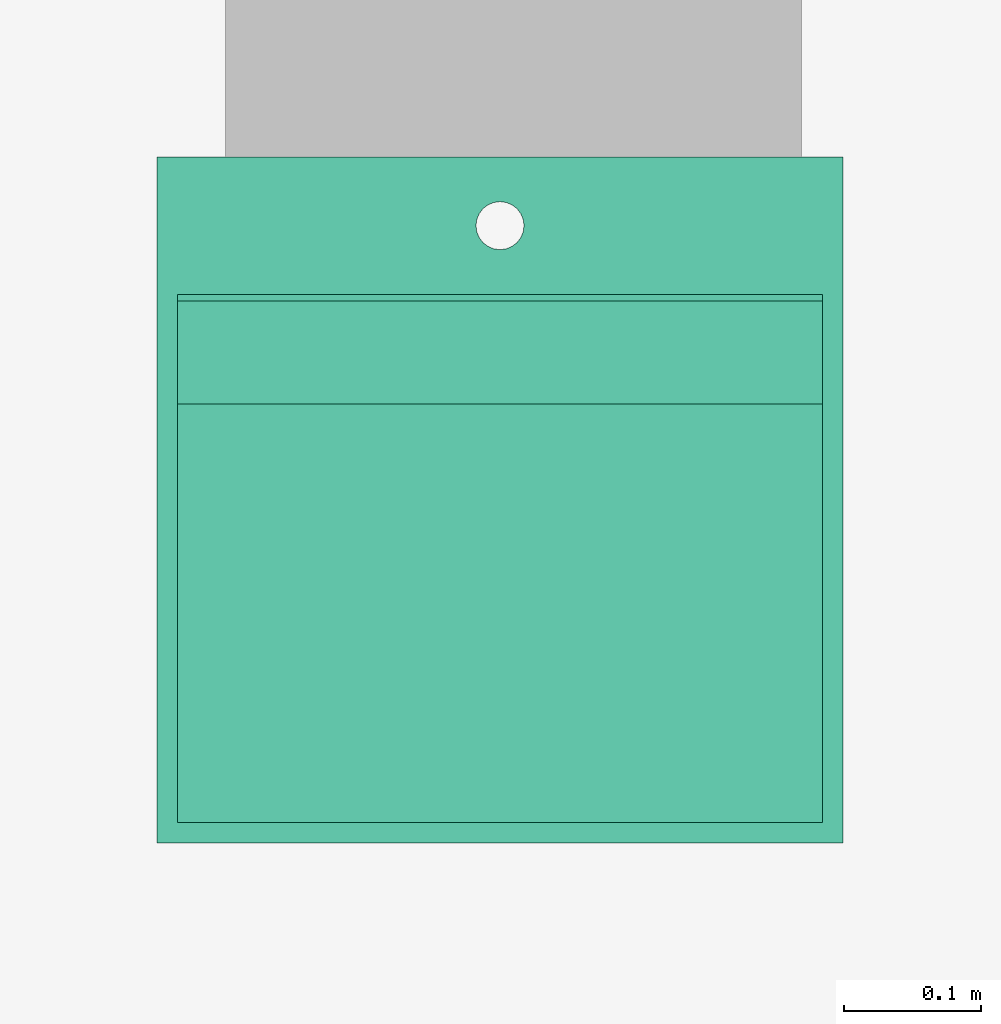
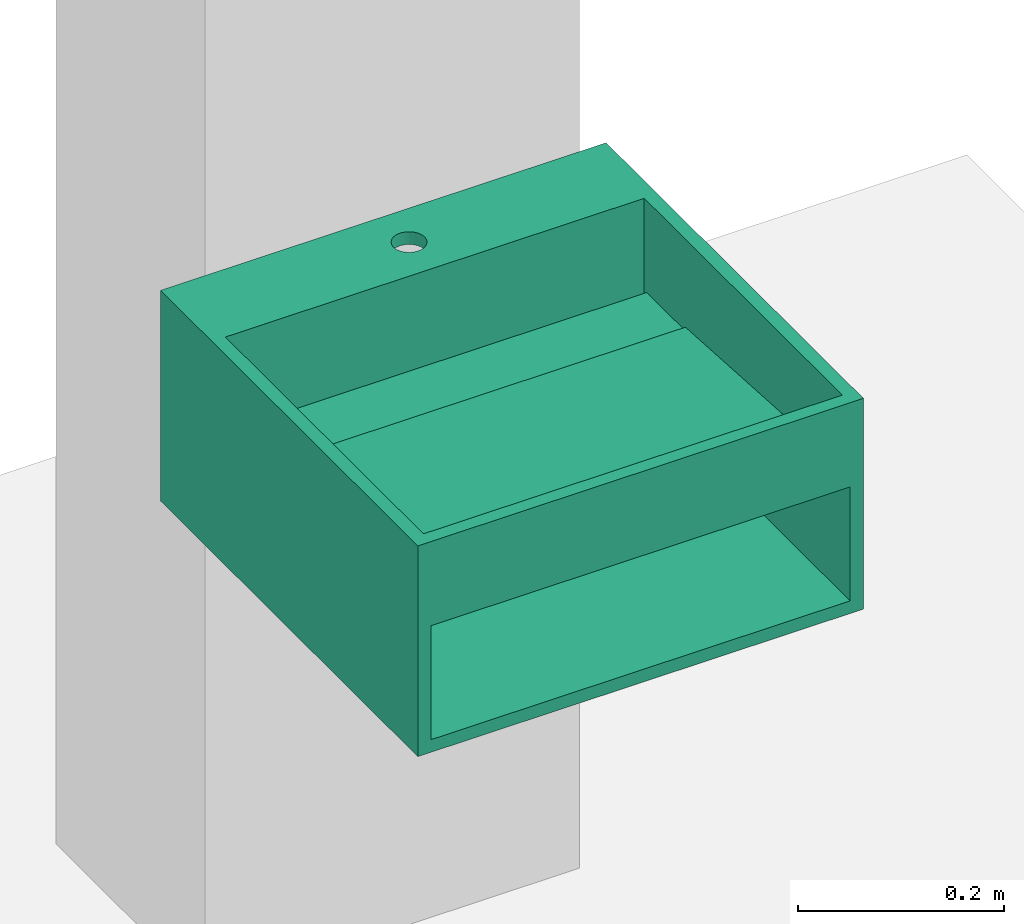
# One storey, part 2 of 2: 1 flow terminal.
"""IFC2X3 building model written with IfcOpenShell, lengths in millimetres."""

from ifc_helpers import new_model, entity, si_unit, converted_unit, derived_unit, direction, frame, origin, place, context, subcontext, project, spatial, faceted_brep, source, transform, mapped, material, element, save


model = new_model("IFC2X3")

# Units and contexts
model_context = context("Model", 3, precision=0.01, world=origin(), true_north=direction((6.12303176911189e-17, 1.0)))
context_of_model = context(None, 3, precision=0.01, world=origin(), true_north=direction((6.12303176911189e-17, 1.0)))
body_context = subcontext(model_context, "Body", "Model", "MODEL_VIEW")
ifc_project = project(units=[si_unit("LENGTHUNIT", "METRE", prefix="MILLI"), si_unit("AREAUNIT", "SQUARE_METRE"), si_unit("VOLUMEUNIT", "CUBIC_METRE"), converted_unit("PLANEANGLEUNIT", "DEGREE", entity("IfcRatioMeasure", 0.0174532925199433), si_unit("PLANEANGLEUNIT", "RADIAN"), dimensions=[0, 0, 0, 0, 0, 0, 0]), si_unit("MASSUNIT", "GRAM", prefix="KILO"), derived_unit("MASSDENSITYUNIT", [(si_unit("MASSUNIT", "GRAM", prefix="KILO"), 1), (si_unit("LENGTHUNIT", "METRE"), -3)]), si_unit("TIMEUNIT", "SECOND"), si_unit("FREQUENCYUNIT", "HERTZ"), si_unit("THERMODYNAMICTEMPERATUREUNIT", "DEGREE_CELSIUS"), derived_unit("THERMALTRANSMITTANCEUNIT", [(si_unit("MASSUNIT", "GRAM", prefix="KILO"), 1), (si_unit("THERMODYNAMICTEMPERATUREUNIT", "KELVIN"), -1), (si_unit("TIMEUNIT", "SECOND"), -3)]), derived_unit("VOLUMETRICFLOWRATEUNIT", [(si_unit("LENGTHUNIT", "METRE"), 3), (si_unit("TIMEUNIT", "SECOND"), -1)]), si_unit("ELECTRICCURRENTUNIT", "AMPERE"), si_unit("ELECTRICVOLTAGEUNIT", "VOLT"), si_unit("POWERUNIT", "WATT"), si_unit("FORCEUNIT", "NEWTON", prefix="KILO"), si_unit("ILLUMINANCEUNIT", "LUX"), si_unit("LUMINOUSFLUXUNIT", "LUMEN"), si_unit("LUMINOUSINTENSITYUNIT", "CANDELA"), derived_unit("USERDEFINED", [(si_unit("MASSUNIT", "GRAM", prefix="KILO"), -1), (si_unit("LENGTHUNIT", "METRE"), -2), (si_unit("TIMEUNIT", "SECOND"), 3), (si_unit("LUMINOUSFLUXUNIT", "LUMEN"), 1)]), derived_unit("LINEARVELOCITYUNIT", [(si_unit("LENGTHUNIT", "METRE"), 1), (si_unit("TIMEUNIT", "SECOND"), -1)]), si_unit("PRESSUREUNIT", "PASCAL"), derived_unit("USERDEFINED", [(si_unit("LENGTHUNIT", "METRE"), -2), (si_unit("MASSUNIT", "GRAM", prefix="KILO"), 1), (si_unit("TIMEUNIT", "SECOND"), -2)])], contexts=[model_context, context_of_model])

# Site, building, storey
site_placement = place(None, origin())
site = spatial("IfcSite", under=ifc_project, at=site_placement, Name="Default", CompositionType="ELEMENT")
building_placement = place(site_placement, origin())
building = spatial("IfcBuilding", under=site, at=building_placement, Name="n/a", CompositionType="ELEMENT")
storey_placement = place(building_placement, origin())
storey = spatial("IfcBuildingStorey", under=building, at=storey_placement, Name="Level 0", CompositionType="ELEMENT", Elevation=0.0)

# Flow terminal
ifc_material = material(Name="DBLTD_Neilur_SolidSurface_White")
shared_shape = source(origin(), body_context, "Body", "Brep", [
    faceted_brep([(485.0, 179.999279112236, 141.295031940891), (15.0, 179.999279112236, 141.295031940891), (15.0, 104.998178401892, 141.295031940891), (485.0, 104.998178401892, 141.295031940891), (485.0, 179.999279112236, 135.539743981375), (485.0, 104.998178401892, 135.539743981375), (15.0, 104.998178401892, 135.539743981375), (15.0, 179.999279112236, 135.539743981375)], [[[0, 1, 2, 3]], [[4, 5, 6, 7]], [[1, 0, 4, 7]], [[2, 1, 7, 6]], [[3, 2, 6, 5]], [[0, 3, 5, 4]]]),
    faceted_brep([(485.0, 179.999279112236, 145.604236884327), (485.0, 179.999279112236, 134.490041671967), (485.0, 99.9981784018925, 134.490041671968), (485.0, 99.9981784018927, 250.0), (485.0, 484.999914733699, 250.0), (485.0, 484.999914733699, 164.290442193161), (485.0, 84.9988682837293, 121.314751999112), (485.0, 164.999193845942, 121.314751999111), (485.0, 164.999193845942, 0.0), (485.0, 0.0, 0.0), (485.0, 0.0, 235.000592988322), (485.0, 84.9988682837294, 235.000592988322), (485.0, 179.999279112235, 130.57463708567), (485.0, 500.0, 150.17983940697), (485.0, 500.0, 14.9993101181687), (485.0, 179.999279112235, 14.9993101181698), (15.0, 84.9988682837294, 235.000592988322), (15.0, 0.0, 235.000592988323), (15.0, 0.0, 0.0), (15.0, 164.999193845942, 0.0), (15.0, 164.999193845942, 121.314751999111), (15.0, 84.9988682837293, 121.314751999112), (15.0, 500.0, 14.9993101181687), (15.0, 500.0, 150.17983940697), (15.0, 179.999279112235, 130.57463708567), (15.0, 179.999279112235, 14.9993101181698), (15.0, 484.999914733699, 250.0), (15.0, 99.9981784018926, 250.0), (15.0, 99.9981784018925, 134.490041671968), (15.0, 179.999279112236, 134.490041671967), (15.0, 179.999279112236, 145.604236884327), (15.0, 484.999914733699, 164.290442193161), (500.0, 500.0, 250.0), (500.0, 0.0, 250.0), (0.0, 500.0, 250.0), (0.0, 0.0, 250.0), (232.500000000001, 49.9471674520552, 250.0), (233.096298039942, 45.4178341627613, 250.0), (234.844555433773, 41.1971674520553, 250.0), (237.625631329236, 37.5727987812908, 250.0), (241.250000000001, 34.7917228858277, 250.0), (245.470666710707, 33.0434654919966, 250.0), (250.0, 32.4471674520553, 250.0), (267.500000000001, 49.9471674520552, 250.0), (266.90370196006, 45.4178341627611, 250.0), (265.155444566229, 41.1971674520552, 250.0), (262.374368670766, 37.5727987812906, 250.0), (258.750000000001, 34.7917228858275, 250.0), (254.529333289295, 33.0434654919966, 250.0), (233.096298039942, 54.4765007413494, 250.0), (234.844555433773, 58.6971674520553, 250.0), (237.625631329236, 62.3215361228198, 250.0), (241.250000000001, 65.1026120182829, 250.0), (245.470666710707, 66.850869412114, 250.0), (250.0, 67.4471674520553, 250.0), (254.529333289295, 66.850869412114, 250.0), (258.750000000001, 65.1026120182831, 250.0), (262.374368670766, 62.3215361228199, 250.0), (265.155444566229, 58.6971674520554, 250.0), (266.90370196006, 54.4765007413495, 250.0), (0.0, 500.0, 0.0), (500.0, 500.0, 0.0), (500.0, 0.0, 0.0), (0.0, 0.0, 0.0), (234.844555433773, 41.1971674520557, 235.000592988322), (233.096298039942, 45.4178341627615, 235.000592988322), (232.500000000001, 49.9471674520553, 235.000592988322), (245.470666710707, 33.0434654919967, 235.000592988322), (241.250000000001, 34.7917228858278, 235.000592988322), (237.625631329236, 37.572798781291, 235.000592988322), (250.0, 32.4471674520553, 235.000592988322), (254.529333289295, 33.0434654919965, 235.000592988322), (258.750000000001, 34.7917228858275, 235.000592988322), (262.374368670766, 37.5727987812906, 235.000592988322), (266.90370196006, 45.417834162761, 235.000592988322), (265.155444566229, 41.1971674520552, 235.000592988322), (267.500000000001, 49.947167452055, 235.000592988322), (266.90370196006, 54.4765007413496, 235.000592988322), (265.155444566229, 58.6971674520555, 235.000592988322), (258.750000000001, 65.1026120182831, 235.000592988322), (262.374368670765, 62.32153612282, 235.000592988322), (254.529333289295, 66.850869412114, 235.000592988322), (250.0, 67.4471674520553, 235.000592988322), (245.470666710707, 66.850869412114, 235.000592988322), (241.250000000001, 65.102612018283, 235.000592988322), (237.625631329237, 62.32153612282, 235.000592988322), (233.096298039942, 54.4765007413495, 235.000592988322), (234.844555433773, 58.6971674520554, 235.000592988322), (280.425250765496, 140.348320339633, 134.490041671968), (277.278533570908, 132.751473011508, 134.490041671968), (281.49853740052, 148.500741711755, 134.490041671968), (272.272829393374, 126.227912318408, 134.490041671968), (265.749268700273, 121.222208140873, 134.490041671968), (258.152421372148, 118.075490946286, 134.490041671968), (250.0, 117.002204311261, 134.490041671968), (241.847578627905, 118.075490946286, 134.490041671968), (234.25073129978, 121.222208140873, 134.490041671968), (227.72717060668, 126.227912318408, 134.490041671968), (222.721466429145, 132.751473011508, 134.490041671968), (219.574749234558, 140.348320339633, 134.490041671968), (218.501462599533, 148.500741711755, 134.490041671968), (219.574749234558, 156.653163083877, 134.490041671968), (222.721466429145, 164.250010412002, 134.490041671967), (227.72717060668, 170.773571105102, 134.490041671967), (234.25073129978, 175.779275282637, 134.490041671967), (241.847578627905, 178.925992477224, 134.490041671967), (250.0, 179.999279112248, 134.490041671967), (258.152421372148, 178.925992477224, 134.490041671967), (265.749268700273, 175.779275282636, 134.490041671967), (272.272829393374, 170.773571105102, 134.490041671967), (277.278533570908, 164.250010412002, 134.490041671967), (280.425250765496, 156.653163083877, 134.490041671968), (265.049476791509, 148.500741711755, 121.314751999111), (264.536678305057, 152.395832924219, 121.314751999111), (264.536678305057, 144.605650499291, 121.314751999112), (263.033229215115, 156.025480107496, 121.314751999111), (260.641587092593, 159.142328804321, 121.314751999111), (257.524738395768, 161.533970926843, 121.314751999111), (253.895091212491, 163.037420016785, 121.314751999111), (250.0, 163.550218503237, 121.314751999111), (246.104908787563, 163.037420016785, 121.314751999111), (242.475261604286, 161.533970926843, 121.314751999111), (239.35841290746, 159.142328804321, 121.314751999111), (236.966770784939, 156.025480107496, 121.314751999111), (235.463321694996, 152.395832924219, 121.314751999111), (234.950523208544, 148.500741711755, 121.314751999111), (235.463321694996, 144.605650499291, 121.314751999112), (236.966770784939, 140.976003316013, 121.314751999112), (239.35841290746, 137.859154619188, 121.314751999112), (242.475261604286, 135.467512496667, 121.314751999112), (246.104908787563, 133.964063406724, 121.314751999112), (250.0, 133.451264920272, 121.314751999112), (253.895091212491, 133.964063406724, 121.314751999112), (257.524738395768, 135.467512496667, 121.314751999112), (260.641587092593, 137.859154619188, 121.314751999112), (263.033229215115, 140.976003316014, 121.314751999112), (236.052495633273, 145.840344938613, 122.972285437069), (237.154468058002, 143.179948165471, 122.972285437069), (238.256440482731, 140.51955139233, 122.972285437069), (252.660396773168, 134.553237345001, 122.972285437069), (255.32079354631, 135.65520976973, 122.972285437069), (257.981190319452, 136.757182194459, 122.972285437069), (234.950523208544, 148.500741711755, 122.972285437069), (239.35841290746, 137.859154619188, 122.972285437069), (242.018809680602, 136.757182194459, 122.972285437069), (250.0, 133.451264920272, 122.972285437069), (247.339603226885, 134.553237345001, 122.972285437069), (244.679206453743, 135.65520976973, 122.972285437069), (263.94750436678, 145.840344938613, 122.972285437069), (261.743559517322, 140.51955139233, 122.972285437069), (262.845531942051, 143.179948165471, 122.972285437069), (260.641587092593, 137.859154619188, 122.972285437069), (265.049476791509, 148.500741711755, 122.972285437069), (263.94750436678, 151.161138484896, 122.972285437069), (262.845531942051, 153.821535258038, 122.972285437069), (261.743559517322, 156.48193203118, 122.972285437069), (247.339603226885, 162.448246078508, 122.972285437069), (244.679206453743, 161.346273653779, 122.972285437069), (242.018809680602, 160.24430122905, 122.972285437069), (260.641587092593, 159.142328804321, 122.972285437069), (257.981190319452, 160.24430122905, 122.972285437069), (250.0, 163.550218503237, 122.972285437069), (252.660396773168, 162.448246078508, 122.972285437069), (255.32079354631, 161.346273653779, 122.972285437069), (236.052495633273, 151.161138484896, 122.972285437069), (238.256440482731, 156.48193203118, 122.972285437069), (237.154468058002, 153.821535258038, 122.972285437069), (239.35841290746, 159.142328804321, 122.972285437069)], [[[0, 1, 2, 3, 4, 5]], [[6, 7, 8, 9, 10, 11]], [[12, 13, 14, 15]], [[16, 17, 18, 19, 20, 21]], [[22, 23, 24, 25]], [[26, 27, 28, 29, 30, 31]], [[32, 4, 3]], [[4, 32, 26]], [[32, 3, 33]], [[34, 26, 32]], [[26, 34, 27]], [[34, 35, 27]], [[36, 27, 35]], [[37, 36, 35]], [[35, 38, 37]], [[38, 35, 39]], [[40, 39, 35]], [[40, 35, 41]], [[42, 41, 35]], [[42, 35, 33]], [[43, 33, 3]], [[44, 33, 43]], [[33, 44, 45]], [[45, 46, 33]], [[46, 47, 33]], [[47, 48, 33]], [[33, 48, 42]], [[49, 27, 36]], [[49, 50, 27]], [[50, 51, 27]], [[52, 27, 51]], [[52, 53, 27]], [[54, 27, 53]], [[55, 3, 54]], [[3, 27, 54]], [[55, 56, 3]], [[56, 57, 3]], [[57, 58, 3]], [[3, 58, 59]], [[43, 3, 59]], [[60, 61, 62, 9, 8, 19, 18, 63]], [[32, 13, 34]], [[13, 32, 61]], [[61, 14, 13]], [[14, 61, 22]], [[60, 22, 61]], [[34, 23, 60]], [[22, 60, 23]], [[23, 34, 13]], [[35, 34, 60, 63]], [[35, 63, 18, 17, 10, 9, 62, 33]], [[32, 33, 62, 61]], [[38, 64, 65, 37]], [[37, 65, 66, 36]], [[41, 67, 68, 40]], [[40, 68, 69, 39]], [[39, 69, 64, 38]], [[41, 42, 70, 67]], [[71, 48, 47, 72]], [[72, 47, 46, 73]], [[74, 75, 45, 44]], [[45, 75, 73, 46]], [[76, 74, 44, 43]], [[70, 42, 48, 71]], [[76, 43, 59, 77]], [[77, 59, 58, 78]], [[79, 80, 57, 56]], [[57, 80, 78, 58]], [[81, 79, 56, 55]], [[81, 55, 54, 82]], [[83, 53, 52, 84]], [[84, 52, 51, 85]], [[86, 87, 50, 49]], [[85, 51, 50, 87]], [[49, 36, 66, 86]], [[82, 54, 53, 83]], [[31, 5, 4, 26]], [[27, 3, 2, 28]], [[88, 89, 2]], [[90, 88, 2]], [[91, 2, 89]], [[2, 91, 92]], [[2, 92, 93]], [[2, 93, 94]], [[94, 28, 2]], [[28, 94, 95]], [[28, 95, 96]], [[28, 96, 97]], [[97, 98, 28]], [[99, 28, 98]], [[28, 99, 100]], [[100, 29, 28]], [[29, 100, 101]], [[29, 101, 102]], [[102, 103, 29]], [[104, 29, 103]], [[29, 104, 105]], [[29, 105, 106]], [[2, 1, 90]], [[106, 107, 1]], [[1, 107, 108]], [[1, 108, 109]], [[1, 109, 110]], [[110, 111, 1]], [[111, 90, 1]], [[106, 1, 0, 30, 29]], [[31, 30, 0, 5]], [[25, 24, 12, 15]], [[22, 25, 15, 14]], [[24, 23, 13, 12]], [[112, 113, 7]], [[114, 112, 7]], [[115, 7, 113]], [[7, 115, 116]], [[7, 116, 117]], [[7, 117, 118]], [[118, 119, 7]], [[20, 7, 119]], [[20, 119, 120]], [[20, 120, 121]], [[121, 122, 20]], [[123, 20, 122]], [[20, 123, 124]], [[124, 125, 20]], [[126, 20, 125]], [[126, 21, 20]], [[126, 127, 21]], [[128, 21, 127]], [[21, 128, 129]], [[21, 129, 130]], [[131, 21, 130]], [[21, 131, 6]], [[6, 131, 132]], [[6, 132, 133]], [[6, 133, 134]], [[134, 135, 6]], [[135, 114, 6]], [[7, 6, 114]], [[16, 21, 6, 11]], [[76, 77, 11]], [[10, 76, 11]], [[76, 10, 74]], [[78, 11, 77]], [[11, 78, 80]], [[11, 80, 79]], [[11, 79, 81]], [[81, 82, 11]], [[16, 11, 82]], [[16, 82, 83]], [[16, 83, 84]], [[84, 85, 16]], [[87, 16, 85]], [[16, 87, 86]], [[86, 66, 16]], [[17, 16, 66]], [[17, 66, 65]], [[65, 64, 17]], [[69, 17, 64]], [[17, 69, 68]], [[17, 68, 67]], [[70, 17, 67]], [[10, 70, 71]], [[17, 70, 10]], [[75, 74, 10]], [[73, 75, 10]], [[10, 72, 73]], [[10, 71, 72]], [[20, 19, 8, 7]], [[125, 136, 126]], [[126, 136, 137, 138, 127]], [[139, 140, 141, 133, 132]], [[133, 141, 134]], [[136, 125, 142]], [[143, 128, 138]], [[144, 128, 143]], [[145, 131, 146]], [[130, 129, 144, 147, 146]], [[129, 128, 144]], [[114, 148, 112]], [[149, 150, 148, 114, 135]], [[149, 135, 134]], [[127, 138, 128]], [[139, 131, 145]], [[151, 134, 141]], [[151, 149, 134]], [[152, 112, 148]], [[130, 146, 131]], [[139, 132, 131]], [[112, 153, 113]], [[113, 153, 154, 155, 115]], [[156, 157, 158, 121, 120]], [[121, 158, 122]], [[153, 112, 152]], [[159, 116, 155]], [[160, 116, 159]], [[161, 119, 162]], [[118, 117, 160, 163, 162]], [[117, 116, 160]], [[124, 164, 125]], [[165, 166, 164, 124, 123]], [[165, 123, 122]], [[115, 155, 116]], [[156, 119, 161]], [[167, 122, 158]], [[167, 165, 122]], [[142, 125, 164]], [[118, 162, 119]], [[156, 120, 119]], [[143, 138, 97]], [[142, 100, 136]], [[146, 95, 94]], [[94, 145, 146]], [[143, 97, 144]], [[96, 95, 146, 147, 144]], [[151, 91, 149]], [[148, 90, 152]], [[97, 138, 98]], [[98, 138, 137, 136, 99]], [[89, 88, 148, 150, 149]], [[145, 94, 139]], [[151, 141, 91]], [[93, 92, 141, 140, 139]], [[92, 91, 141]], [[99, 136, 100]], [[89, 149, 91]], [[148, 88, 90]], [[96, 144, 97]], [[93, 139, 94]], [[159, 155, 109]], [[152, 90, 153]], [[162, 107, 106]], [[106, 161, 162]], [[159, 109, 160]], [[107, 162, 163, 160, 108]], [[105, 156, 106]], [[109, 155, 110]], [[110, 155, 154, 153, 111]], [[111, 153, 90]], [[167, 103, 165]], [[164, 100, 142]], [[108, 160, 109]], [[102, 165, 103]], [[102, 101, 164, 166, 165]], [[100, 164, 101]], [[105, 104, 158, 157, 156]], [[103, 158, 104]], [[167, 158, 103]], [[161, 106, 156]]]),
])
flow_terminal_placement = place(storey_placement, frame((2717.55113487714, 652.680190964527, 600.0), z_axis=(0.0, 0.0, 1.0), x_axis=(-1.0, 0.0, 0.0)))
element("IfcFlowTerminal", 1, at=flow_terminal_placement, inside=storey, material=ifc_material, Name="17", ObjectType="DBLTD_Neilur_WallHungWashbasins_700310:Wall Mounted Basin", context=body_context, shape_type="MappedRepresentation", body=[
    mapped(shared_shape, transform((0.0, 0.0, 0.0), scale=1.0)),
])

save(model, "model.ifc")
